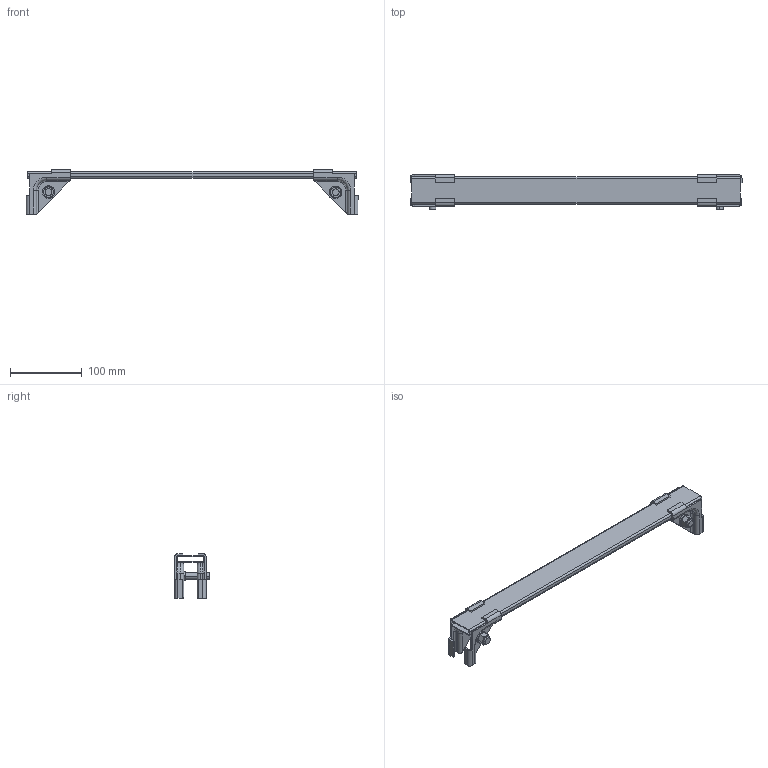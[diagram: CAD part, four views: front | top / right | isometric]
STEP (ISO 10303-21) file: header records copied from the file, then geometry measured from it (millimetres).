
FILE_DESCRIPTION (( 'STEP AP203' ), '1' );
FILE_NAME ('lrtk18w.STEP', '2015-05-21T14:22:26', ( '' ), ( '' ), 'SwSTEP 2.0', 'SolidWorks 2010', '' );
FILE_SCHEMA (( 'CONFIG_CONTROL_DESIGN' ));
Length unit declared in the file: inch
Products named in the file (7): JunctionSpliceBrkt; JunctionSpliceKit; lrtk18w; CarriageBolt.375x1.50; RunwayTerminationBrkt_18inWide; Nut.375; WasherLock.375
Assembly tree (8 placements, depth 3):
  lrtk18w
    RunwayTerminationBrkt_18inWide
    JunctionSpliceKit  x2
      Nut.375
      JunctionSpliceBrkt
      WasherLock.375
      CarriageBolt.375x1.50
Bounding box: 462.13 x 48.01 x 61.91 mm (x, y, z)
Volume: 100065.2 mm3; surface area: 115677 mm2
Topology: 11 solids, 11 shells, 318 faces, 792 edges, 498 vertices
Faces by surface type: plane 146, cylinder 106, cone 36, torus 26, sphere 4
Entity records: 4628 total; most frequent: CARTESIAN_POINT 870, DIRECTION 645, ORIENTED_EDGE 608, EDGE_CURVE 304, AXIS2_PLACEMENT_3D 244, VERTEX_POINT 191, LINE 157, VECTOR 157
